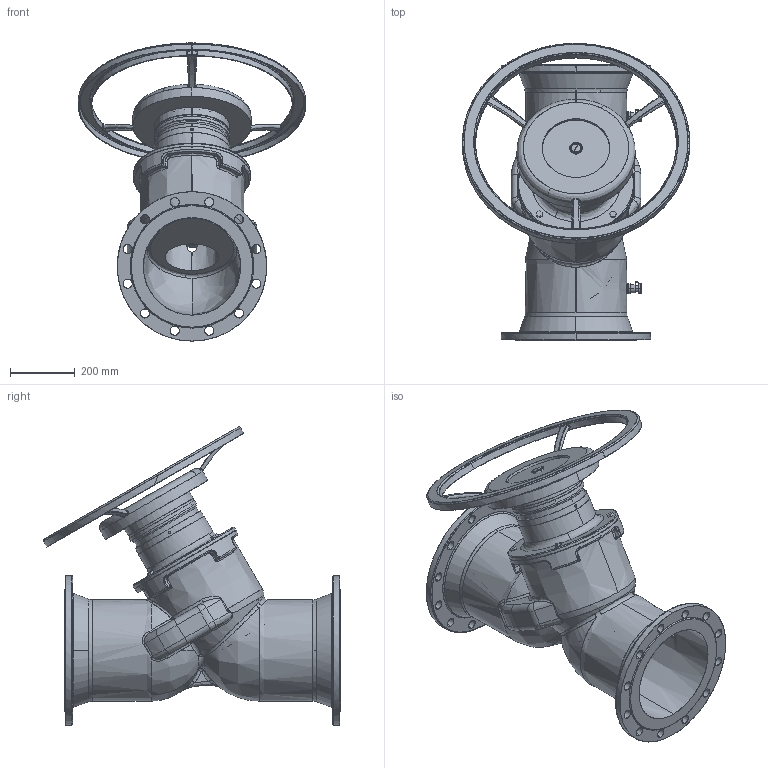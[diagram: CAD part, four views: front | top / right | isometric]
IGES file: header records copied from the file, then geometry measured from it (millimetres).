
Start section: SolidWorks IGES file using analytic representation for surfaces
Global section: file name: C:\Users\Administrator\Desktop\temp\RC4240-DN300.IGS; native system: SolidWorks 2015; preprocessor: SolidWorks 2015; author: Administrator; date: 170423.170747; units: millimetre
Bounding box: 700 x 915.38 x 918.16 mm (x, y, z)
Surface area: 4043714.7 mm2 (no closed solid volume)
Topology: 0 solids, 0 shells, 863 faces, 15354 edges, 15336 vertices
Faces by surface type: revolution 471, bspline 392
